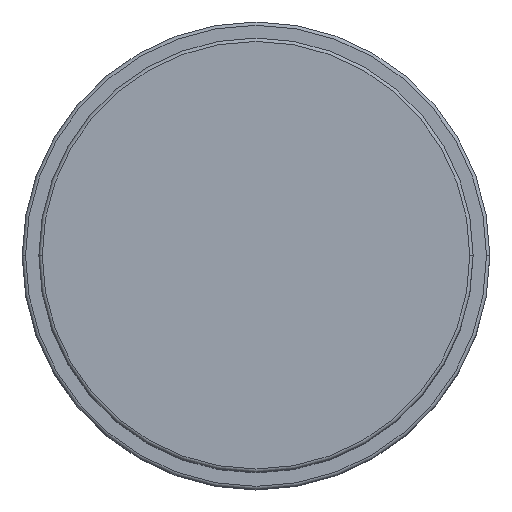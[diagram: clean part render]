
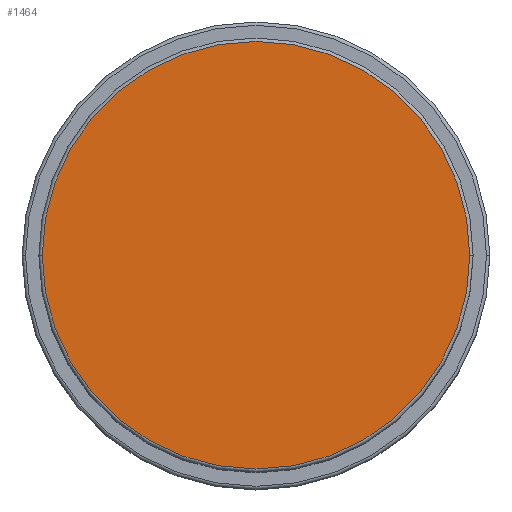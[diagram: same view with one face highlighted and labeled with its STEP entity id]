
A CAD part, top view. The second image highlights one B-rep face of the part: STEP entity #1464.
In plain terms, the highlighted planar face has unit normal (0, 0, 1).
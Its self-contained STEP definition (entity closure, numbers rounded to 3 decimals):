
#87 = CIRCLE ( 'NONE', #744, 32. ) ;
#172 = DIRECTION ( 'NONE',  ( 1., 0., 0. ) ) ;
#234 = CIRCLE ( 'NONE', #1564, 32. ) ;
#300 = DIRECTION ( 'NONE',  ( 0., 0., 1. ) ) ;
#395 = ORIENTED_EDGE ( 'NONE', *, *, #599, .T. ) ;
#402 = DIRECTION ( 'NONE',  ( 0., 0., 1. ) ) ;
#426 = DIRECTION ( 'NONE',  ( 1., 0., 0. ) ) ;
#440 = CARTESIAN_POINT ( 'NONE',  ( 0., 0., 82. ) ) ;
#554 = PLANE ( 'NONE',  #1527 ) ;
#599 = EDGE_CURVE ( 'NONE', #1186, #817, #87, .T. ) ;
#656 = DIRECTION ( 'NONE',  ( 1., 0., 0. ) ) ;
#744 = AXIS2_PLACEMENT_3D ( 'NONE', #440, #300, #426 ) ;
#810 = FACE_OUTER_BOUND ( 'NONE', #1109, .T. ) ;
#817 = VERTEX_POINT ( 'NONE', #1648 ) ;
#932 = CARTESIAN_POINT ( 'NONE',  ( 0., 0., 82. ) ) ;
#1042 = DIRECTION ( 'NONE',  ( 0., 0., 1. ) ) ;
#1054 = CARTESIAN_POINT ( 'NONE',  ( 0., 0., 82. ) ) ;
#1091 = ORIENTED_EDGE ( 'NONE', *, *, #1129, .T. ) ;
#1109 = EDGE_LOOP ( 'NONE', ( #395, #1091 ) ) ;
#1129 = EDGE_CURVE ( 'NONE', #817, #1186, #234, .T. ) ;
#1186 = VERTEX_POINT ( 'NONE', #1593 ) ;
#1464 = ADVANCED_FACE ( 'NONE', ( #810 ), #554, .T. ) ;
#1527 = AXIS2_PLACEMENT_3D ( 'NONE', #1054, #1042, #656 ) ;
#1564 = AXIS2_PLACEMENT_3D ( 'NONE', #932, #402, #172 ) ;
#1593 = CARTESIAN_POINT ( 'NONE',  ( 32., 0., 82. ) ) ;
#1648 = CARTESIAN_POINT ( 'NONE',  ( -32., 0., 82. ) ) ;
